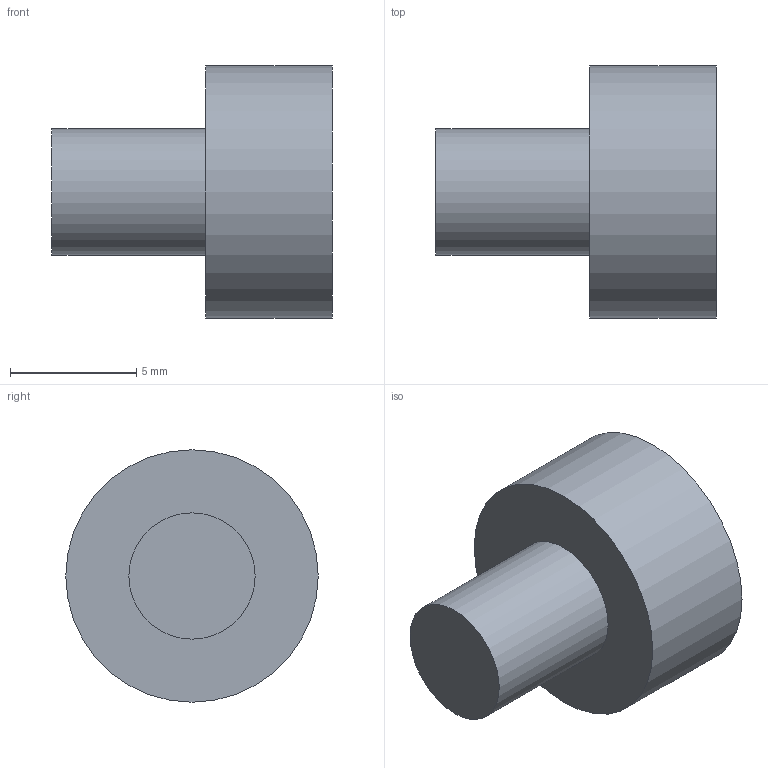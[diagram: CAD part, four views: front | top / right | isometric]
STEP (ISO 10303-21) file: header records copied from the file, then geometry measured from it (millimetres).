
FILE_DESCRIPTION(('Open CASCADE Model'),'2;1');
FILE_NAME('Open CASCADE Shape Model','2026-10-31T23:30:32',('Author'),( 'Open CASCADE'),'Open CASCADE STEP processor 7.9','Open CASCADE 7.9' ,'Unknown');
FILE_SCHEMA(('AUTOMOTIVE_DESIGN { 1 0 10303 214 1 1 1 1 }'));
Length unit declared in the file: millimetre
Products named in the file (1): Open CASCADE STEP translator 7.9 16
Bounding box: 11.1 x 10 x 10 mm (x, y, z)
Volume: 512.5 mm3; surface area: 410 mm2
Topology: 1 solids, 1 shells, 5 faces, 6 edges, 4 vertices
Faces by surface type: plane 3, cylinder 2
Full cylindrical faces by diameter (mm): 5 x1, 10 x1
Entity records: 192 total; most frequent: DIRECTION 34, CARTESIAN_POINT 28, ORIENTED_EDGE 12, PCURVE 12, DEFINITIONAL_REPRESENTATION 12, AXIS2_PLACEMENT_3D 10, LINE 10, VECTOR 10
